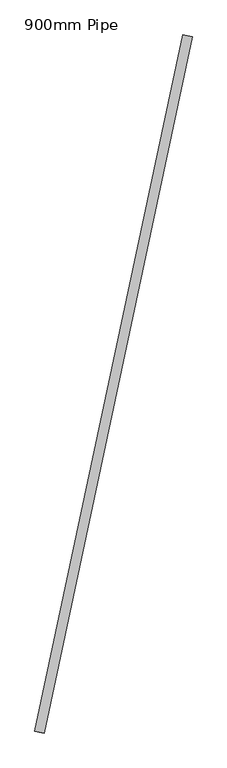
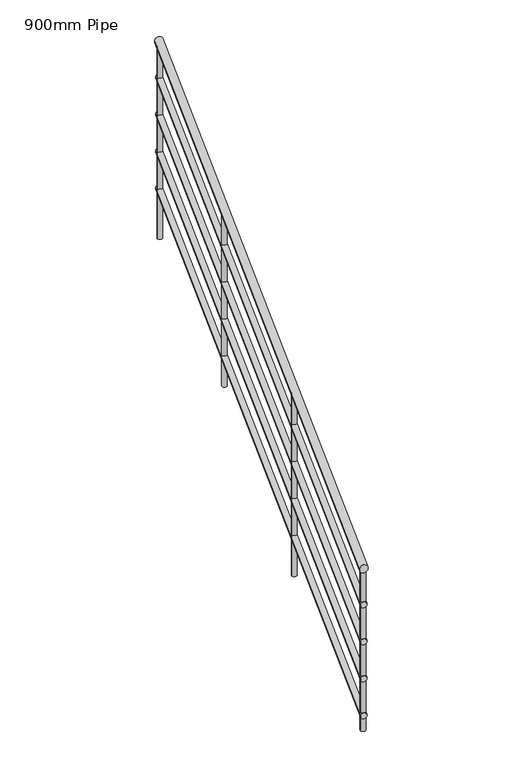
"""IFC4 building model written with IfcOpenShell, lengths in millimetres: railing geometry, 900mm Pipe."""

from ifc_helpers import new_model, si_unit, frame, origin, place, context, project, spatial, circle_curve, ellipse_curve, source, transform, mapped, element, save
from ifc_brep_helpers import plane_surface, cylinder_surface, advanced_brep


def railing_900mm_pipe_c59341c0(model_context):
    return source(origin(), model_context, "Body", "AdvancedBrep", [
        advanced_brep(
        [(896781.089352, 36627.0415449, 6058.386247), (896820.2128419, 36618.7137279, 6058.386247), (897393.6115068, 39504.6269085, 6954.8568352), (897432.7349967, 39496.2990914, 6954.8568352)],
        [
            (0, 1, ellipse_curve(frame((896800.6510969, 36622.8776364, 6058.386247), z_axis=(-0.20819542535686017, -0.9780872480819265, 0.0), x_axis=(0.0, 0.0, -0.9999999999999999)), 20.9078706, 20.0)),
            (1, 0, ellipse_curve(frame((896800.6510969, 36622.8776364, 6058.386247), z_axis=(-0.20819542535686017, -0.9780872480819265, 0.0), x_axis=(0.0, 0.0, -0.9999999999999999)), 20.9078706, 20.0)),
            (2, 3, ellipse_curve(frame((897413.1732517, 39500.463, 6954.8568352), z_axis=(0.20819542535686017, 0.9780872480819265, 0.0), x_axis=(0.0, 0.0, -0.9999999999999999)), 20.9078706, 20.0)),
            (3, 2, ellipse_curve(frame((897413.1732517, 39500.463, 6954.8568352), z_axis=(0.20819542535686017, 0.9780872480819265, 0.0), x_axis=(0.0, 0.0, -0.9999999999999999)), 20.9078706, 20.0)),
            (0, 2),
            (3, 1),
        ],
        [
            plane_surface(frame((896800.6510969, 36622.8776364, 6079.2941176), z_axis=(-0.20819542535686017, -0.9780872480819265, 0.0), x_axis=(0.9780872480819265, -0.20819542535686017, 0.0))),
            plane_surface(frame((897413.1732517, 39500.463, 6975.7647059), z_axis=(0.20819542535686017, 0.9780872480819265, 0.0), x_axis=(0.9780872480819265, -0.20819542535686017, 0.0))),
            cylinder_surface(frame((896801.8647842, 36628.5794525, 6060.1625663), z_axis=(-0.1991550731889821, -0.9356163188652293, -0.2914778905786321), x_axis=(0.9780872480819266, -0.2081954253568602, 0.0)), 20.0),
        ],
        [
            (0, [[1, 2]]),
            (1, [[3, 4]]),
            (2, [[-1, 5, -4, 6]]),
            (2, [[-2, -6, -3, -5]]),
        ],
    ),
        advanced_brep(
        [(896785.9797882, 36626.0005678, 5863.6132147), (896815.3224057, 36619.754705, 5863.6132147), (897398.501943, 39503.5859313, 6760.0838029), (897427.8445605, 39497.3400686, 6760.0838029)],
        [
            (0, 1, ellipse_curve(frame((896800.6510969, 36622.8776364, 5863.6132147), z_axis=(-0.20819542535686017, -0.9780872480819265, 0.0), x_axis=(0.0, 0.0, -0.9999999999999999)), 15.680903, 15.0)),
            (1, 0, ellipse_curve(frame((896800.6510969, 36622.8776364, 5863.6132147), z_axis=(-0.20819542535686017, -0.9780872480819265, 0.0), x_axis=(0.0, 0.0, -0.9999999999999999)), 15.680903, 15.0)),
            (2, 3, ellipse_curve(frame((897413.1732517, 39500.463, 6760.0838029), z_axis=(0.20819542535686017, 0.9780872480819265, 0.0), x_axis=(0.0, 0.0, -0.9999999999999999)), 15.680903, 15.0)),
            (3, 2, ellipse_curve(frame((897413.1732517, 39500.463, 6760.0838029), z_axis=(0.20819542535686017, 0.9780872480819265, 0.0), x_axis=(0.0, 0.0, -0.9999999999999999)), 15.680903, 15.0)),
            (0, 2),
            (3, 1),
        ],
        [
            plane_surface(frame((896800.6510969, 36622.8776364, 5879.2941176), z_axis=(-0.20819542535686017, -0.9780872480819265, 0.0), x_axis=(0.9780872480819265, -0.20819542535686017, 0.0))),
            plane_surface(frame((897413.1732517, 39500.463, 6775.7647059), z_axis=(0.20819542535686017, 0.9780872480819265, 0.0), x_axis=(0.9780872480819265, -0.20819542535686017, 0.0))),
            cylinder_surface(frame((896801.5613624, 36627.1539985, 5864.9454542), z_axis=(-0.1991550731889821, -0.9356163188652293, -0.2914778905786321), x_axis=(0.9780872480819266, -0.2081954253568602, 0.0)), 15.0),
        ],
        [
            (0, [[1, 2]]),
            (1, [[3, 4]]),
            (2, [[-1, 5, -4, 6]]),
            (2, [[-2, -6, -3, -5]]),
        ],
    ),
        advanced_brep(
        [(896785.9797882, 36626.0005678, 5663.6132147), (896815.3224057, 36619.754705, 5663.6132147), (897398.501943, 39503.5859313, 6560.0838029), (897427.8445605, 39497.3400686, 6560.0838029)],
        [
            (0, 1, ellipse_curve(frame((896800.6510969, 36622.8776364, 5663.6132147), z_axis=(-0.20819542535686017, -0.9780872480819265, 0.0), x_axis=(0.0, 0.0, -0.9999999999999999)), 15.680903, 15.0)),
            (1, 0, ellipse_curve(frame((896800.6510969, 36622.8776364, 5663.6132147), z_axis=(-0.20819542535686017, -0.9780872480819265, 0.0), x_axis=(0.0, 0.0, -0.9999999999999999)), 15.680903, 15.0)),
            (2, 3, ellipse_curve(frame((897413.1732517, 39500.463, 6560.0838029), z_axis=(0.20819542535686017, 0.9780872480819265, 0.0), x_axis=(0.0, 0.0, -0.9999999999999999)), 15.680903, 15.0)),
            (3, 2, ellipse_curve(frame((897413.1732517, 39500.463, 6560.0838029), z_axis=(0.20819542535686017, 0.9780872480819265, 0.0), x_axis=(0.0, 0.0, -0.9999999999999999)), 15.680903, 15.0)),
            (0, 2),
            (3, 1),
        ],
        [
            plane_surface(frame((896800.6510969, 36622.8776364, 5679.2941176), z_axis=(-0.20819542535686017, -0.9780872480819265, 0.0), x_axis=(0.9780872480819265, -0.20819542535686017, 0.0))),
            plane_surface(frame((897413.1732517, 39500.463, 6575.7647059), z_axis=(0.20819542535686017, 0.9780872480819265, 0.0), x_axis=(0.9780872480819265, -0.20819542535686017, 0.0))),
            cylinder_surface(frame((896801.5613624, 36627.1539985, 5664.9454542), z_axis=(-0.1991550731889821, -0.9356163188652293, -0.2914778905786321), x_axis=(0.9780872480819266, -0.2081954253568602, 0.0)), 15.0),
        ],
        [
            (0, [[1, 2]]),
            (1, [[3, 4]]),
            (2, [[-1, 5, -4, 6]]),
            (2, [[-2, -6, -3, -5]]),
        ],
    ),
        advanced_brep(
        [(896785.9797882, 36626.0005678, 5463.6132147), (896815.3224057, 36619.754705, 5463.6132147), (897398.501943, 39503.5859313, 6360.0838029), (897427.8445605, 39497.3400686, 6360.0838029)],
        [
            (0, 1, ellipse_curve(frame((896800.6510969, 36622.8776364, 5463.6132147), z_axis=(-0.20819542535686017, -0.9780872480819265, 0.0), x_axis=(0.0, 0.0, -0.9999999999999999)), 15.680903, 15.0)),
            (1, 0, ellipse_curve(frame((896800.6510969, 36622.8776364, 5463.6132147), z_axis=(-0.20819542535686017, -0.9780872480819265, 0.0), x_axis=(0.0, 0.0, -0.9999999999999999)), 15.680903, 15.0)),
            (2, 3, ellipse_curve(frame((897413.1732517, 39500.463, 6360.0838029), z_axis=(0.20819542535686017, 0.9780872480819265, 0.0), x_axis=(0.0, 0.0, -0.9999999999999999)), 15.680903, 15.0)),
            (3, 2, ellipse_curve(frame((897413.1732517, 39500.463, 6360.0838029), z_axis=(0.20819542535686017, 0.9780872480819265, 0.0), x_axis=(0.0, 0.0, -0.9999999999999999)), 15.680903, 15.0)),
            (0, 2),
            (3, 1),
        ],
        [
            plane_surface(frame((896800.6510969, 36622.8776364, 5479.2941176), z_axis=(-0.20819542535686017, -0.9780872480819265, 0.0), x_axis=(0.9780872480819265, -0.20819542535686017, 0.0))),
            plane_surface(frame((897413.1732517, 39500.463, 6375.7647059), z_axis=(0.20819542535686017, 0.9780872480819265, 0.0), x_axis=(0.9780872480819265, -0.20819542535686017, 0.0))),
            cylinder_surface(frame((896801.5613624, 36627.1539985, 5464.9454542), z_axis=(-0.1991550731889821, -0.9356163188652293, -0.2914778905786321), x_axis=(0.9780872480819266, -0.2081954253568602, 0.0)), 15.0),
        ],
        [
            (0, [[1, 2]]),
            (1, [[3, 4]]),
            (2, [[-1, 5, -4, 6]]),
            (2, [[-2, -6, -3, -5]]),
        ],
    ),
        advanced_brep(
        [(896785.9797882, 36626.0005678, 5263.6132147), (896815.3224057, 36619.754705, 5263.6132147), (897398.501943, 39503.5859313, 6160.0838029), (897427.8445605, 39497.3400686, 6160.0838029)],
        [
            (0, 1, ellipse_curve(frame((896800.6510969, 36622.8776364, 5263.6132147), z_axis=(-0.20819542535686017, -0.9780872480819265, 0.0), x_axis=(0.0, 0.0, -0.9999999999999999)), 15.680903, 15.0)),
            (1, 0, ellipse_curve(frame((896800.6510969, 36622.8776364, 5263.6132147), z_axis=(-0.20819542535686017, -0.9780872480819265, 0.0), x_axis=(0.0, 0.0, -0.9999999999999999)), 15.680903, 15.0)),
            (2, 3, ellipse_curve(frame((897413.1732517, 39500.463, 6160.0838029), z_axis=(0.20819542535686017, 0.9780872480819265, 0.0), x_axis=(0.0, 0.0, -0.9999999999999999)), 15.680903, 15.0)),
            (3, 2, ellipse_curve(frame((897413.1732517, 39500.463, 6160.0838029), z_axis=(0.20819542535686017, 0.9780872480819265, 0.0), x_axis=(0.0, 0.0, -0.9999999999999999)), 15.680903, 15.0)),
            (0, 2),
            (3, 1),
        ],
        [
            plane_surface(frame((896800.6510969, 36622.8776364, 5279.2941176), z_axis=(-0.20819542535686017, -0.9780872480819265, 0.0), x_axis=(0.9780872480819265, -0.20819542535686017, 0.0))),
            plane_surface(frame((897413.1732517, 39500.463, 6175.7647059), z_axis=(0.20819542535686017, 0.9780872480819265, 0.0), x_axis=(0.9780872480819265, -0.20819542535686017, 0.0))),
            cylinder_surface(frame((896801.5613624, 36627.1539985, 5264.9454542), z_axis=(-0.1991550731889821, -0.9356163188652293, -0.2914778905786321), x_axis=(0.9780872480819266, -0.2081954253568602, 0.0)), 15.0),
        ],
        [
            (0, [[1, 2]]),
            (1, [[3, 4]]),
            (2, [[-1, 5, -4, 6]]),
            (2, [[-2, -6, -3, -5]]),
        ],
    ),
        advanced_brep(
        [(897229.2680383, 38576.4496897, 6646.8965794), (897229.2680383, 38576.4496897, 5717.1764706), (897204.8158571, 38581.6545754, 5717.1764706), (897204.8158571, 38581.6545754, 6646.8965794)],
        [
            (0, 1),
            (1, 2, circle_curve(frame((897217.0419477, 38579.0521325, 5717.1764706), z_axis=(0.0, 0.0, 1.0), x_axis=(-0.9780872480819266, 0.20819542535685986, 0.0)), 12.5)),
            (2, 3),
            (3, 0, ellipse_curve(frame((897217.0419477, 38579.0521325, 6646.8965794), z_axis=(0.06068436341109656, 0.28509080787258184, -0.9565775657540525), x_axis=(0.19915507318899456, 0.9356163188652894, 0.2914778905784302)), 13.0674191, 12.5)),
            (0, 3, ellipse_curve(frame((897217.0419477, 38579.0521325, 6646.8965794), z_axis=(0.06068436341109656, 0.28509080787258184, -0.9565775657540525), x_axis=(0.19915507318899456, 0.9356163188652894, 0.2914778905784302)), 13.0674191, 12.5)),
            (2, 1, circle_curve(frame((897217.0419477, 38579.0521325, 5717.1764706), z_axis=(0.0, 0.0, 1.0), x_axis=(-0.9780872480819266, 0.20819542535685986, 0.0)), 12.5)),
        ],
        [
            cylinder_surface(frame((897217.0419477, 38579.0521325, 5617.1764706), z_axis=(0.0, 0.0, 1.0), x_axis=(-0.9780872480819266, 0.20819542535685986, 0.0)), 12.5),
            plane_surface(frame((897197.7946521, 38608.7091994, 6654.5143069), z_axis=(-0.06068436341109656, -0.28509080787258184, 0.9565775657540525), x_axis=(0.9780872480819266, -0.20819542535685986, 0.0))),
            plane_surface(frame((897187.3848808, 38559.804837, 5717.1764706), z_axis=(0.0, 0.0, -1.0), x_axis=(0.9780872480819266, -0.20819542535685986, 0.0))),
        ],
        [
            (0, [[1, 2, 3, 4]]),
            (0, [[-1, 5, -3, 6]]),
            (1, [[-4, -5]]),
            (2, [[-2, -6]]),
        ],
    ),
        advanced_brep(
        [(897021.0726129, 37598.3624416, 6342.1874779), (897021.0726129, 37598.3624416, 5358.5882353), (896996.6204317, 37603.5673273, 5358.5882353), (896996.6204317, 37603.5673273, 6342.1874779)],
        [
            (0, 1),
            (1, 2, circle_curve(frame((897008.8465223, 37600.9648845, 5358.5882353), z_axis=(0.0, 0.0, 1.0), x_axis=(-0.9780872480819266, 0.20819542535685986, 0.0)), 12.5)),
            (2, 3),
            (3, 0, ellipse_curve(frame((897008.8465223, 37600.9648845, 6342.1874779), z_axis=(0.06068436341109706, 0.2850908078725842, -0.9565775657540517), x_axis=(0.19915507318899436, 0.9356163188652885, 0.29147789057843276)), 13.0674191, 12.5)),
            (0, 3, ellipse_curve(frame((897008.8465223, 37600.9648845, 6342.1874779), z_axis=(0.06068436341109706, 0.2850908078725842, -0.9565775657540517), x_axis=(0.19915507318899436, 0.9356163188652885, 0.29147789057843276)), 13.0674191, 12.5)),
            (2, 1, circle_curve(frame((897008.8465223, 37600.9648845, 5358.5882353), z_axis=(0.0, 0.0, 1.0), x_axis=(-0.9780872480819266, 0.20819542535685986, 0.0)), 12.5)),
        ],
        [
            cylinder_surface(frame((897008.8465223, 37600.9648845, 5258.5882353), z_axis=(0.0, 0.0, 1.0), x_axis=(-0.9780872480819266, 0.20819542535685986, 0.0)), 12.5),
            plane_surface(frame((896989.5992267, 37630.6219513, 6349.8052054), z_axis=(-0.06068436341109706, -0.2850908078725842, 0.9565775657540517), x_axis=(0.9780872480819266, -0.20819542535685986, 0.0))),
            plane_surface(frame((896979.1894555, 37581.7175889, 5358.5882353), z_axis=(0.0, 0.0, -1.0), x_axis=(0.9780872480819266, -0.20819542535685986, 0.0))),
        ],
        [
            (0, [[1, 2, 3, 4]]),
            (0, [[-1, 5, -3, 6]]),
            (1, [[-4, -5]]),
            (2, [[-2, -6]]),
        ],
    ),
        advanced_brep(
        [(897422.7968995, 39485.6344665, 6930.1401008), (897422.7968995, 39485.6344665, 5896.4705882), (897398.3447183, 39490.8393522, 5896.4705882), (897398.3447183, 39490.8393522, 6930.1401008)],
        [
            (0, 1),
            (1, 2, circle_curve(frame((897410.5708089, 39488.2369094, 5896.4705882), z_axis=(0.0, 0.0, 1.0), x_axis=(-0.9780872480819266, 0.20819542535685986, 0.0)), 12.5)),
            (2, 3),
            (3, 0, ellipse_curve(frame((897410.5708089, 39488.2369094, 6930.1401008), z_axis=(0.06068436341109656, 0.28509080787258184, -0.9565775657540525), x_axis=(0.19915507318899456, 0.9356163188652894, 0.2914778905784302)), 13.0674191, 12.5)),
            (0, 3, ellipse_curve(frame((897410.5708089, 39488.2369094, 6930.1401008), z_axis=(0.06068436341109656, 0.28509080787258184, -0.9565775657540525), x_axis=(0.19915507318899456, 0.9356163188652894, 0.2914778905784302)), 13.0674191, 12.5)),
            (2, 1, circle_curve(frame((897410.5708089, 39488.2369094, 5896.4705882), z_axis=(0.0, 0.0, 1.0), x_axis=(-0.9780872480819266, 0.20819542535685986, 0.0)), 12.5)),
        ],
        [
            cylinder_surface(frame((897410.5708089, 39488.2369094, 5796.4705882), z_axis=(0.0, 0.0, 1.0), x_axis=(-0.9780872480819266, 0.20819542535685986, 0.0)), 12.5),
            plane_surface(frame((897391.3235134, 39517.8939762, 6937.7578284), z_axis=(-0.06068436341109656, -0.28509080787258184, 0.9565775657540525), x_axis=(0.9780872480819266, -0.20819542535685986, 0.0))),
            plane_surface(frame((897380.9137421, 39468.9896138, 5896.4705882), z_axis=(0.0, 0.0, -1.0), x_axis=(0.9780872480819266, -0.20819542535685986, 0.0))),
        ],
        [
            (0, [[1, 2, 3, 4]]),
            (0, [[-1, 5, -3, 6]]),
            (1, [[-4, -5]]),
            (2, [[-2, -6]]),
        ],
    ),
        advanced_brep(
        [(896815.4796304, 36632.5012842, 6041.2872401), (896815.4796304, 36632.5012842, 5179.2941176), (896791.0274492, 36637.7061698, 5179.2941176), (896791.0274492, 36637.7061698, 6041.2872401)],
        [
            (0, 1),
            (1, 2, circle_curve(frame((896803.2535398, 36635.103727, 5179.2941176), z_axis=(0.0, 0.0, 1.0), x_axis=(-0.9780872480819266, 0.20819542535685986, 0.0)), 12.5)),
            (2, 3),
            (3, 0, ellipse_curve(frame((896803.2535398, 36635.103727, 6041.2872401), z_axis=(0.06068436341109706, 0.2850908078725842, -0.9565775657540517), x_axis=(0.19915507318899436, 0.9356163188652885, 0.29147789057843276)), 13.0674191, 12.5)),
            (0, 3, ellipse_curve(frame((896803.2535398, 36635.103727, 6041.2872401), z_axis=(0.06068436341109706, 0.2850908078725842, -0.9565775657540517), x_axis=(0.19915507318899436, 0.9356163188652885, 0.29147789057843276)), 13.0674191, 12.5)),
            (2, 1, circle_curve(frame((896803.2535398, 36635.103727, 5179.2941176), z_axis=(0.0, 0.0, 1.0), x_axis=(-0.9780872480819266, 0.20819542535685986, 0.0)), 12.5)),
        ],
        [
            cylinder_surface(frame((896803.2535398, 36635.103727, 5079.2941176), z_axis=(0.0, 0.0, 1.0), x_axis=(-0.9780872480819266, 0.20819542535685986, 0.0)), 12.5),
            plane_surface(frame((896784.0062442, 36664.7607938, 6048.9049677), z_axis=(-0.06068436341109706, -0.2850908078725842, 0.9565775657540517), x_axis=(0.9780872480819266, -0.20819542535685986, 0.0))),
            plane_surface(frame((896773.5964729, 36615.8564314, 5179.2941176), z_axis=(0.0, 0.0, -1.0), x_axis=(0.9780872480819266, -0.20819542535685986, 0.0))),
        ],
        [
            (0, [[1, 2, 3, 4]]),
            (0, [[-1, 5, -3, 6]]),
            (1, [[-4, -5]]),
            (2, [[-2, -6]]),
        ],
    ),
    ])


if __name__ == "__main__":
    model = new_model("IFC4")
    model_context = context("Model", 3, world=origin())
    ifc_project = project(units=[si_unit("LENGTHUNIT", "METRE", prefix="MILLI")], contexts=[model_context])
    site = spatial("IfcSite", under=ifc_project)
    building = spatial("IfcBuilding", under=site)
    placement = place(None, origin())
    railing_900mm_pipe_shape = railing_900mm_pipe_c59341c0(model_context)
    element("IfcRailing", 1, ObjectType="900mm Pipe", at=placement, inside=building, context=model_context, shape_type="MappedRepresentation", body=[
        mapped(railing_900mm_pipe_shape, transform((0.0, 0.0, 0.0), x_axis=(1.0, 0.0, 0.0), y_axis=(0.0, 1.0, 0.0), z_axis=(0.0, 0.0, 1.0))),
    ])
    save(model, "model.ifc")
